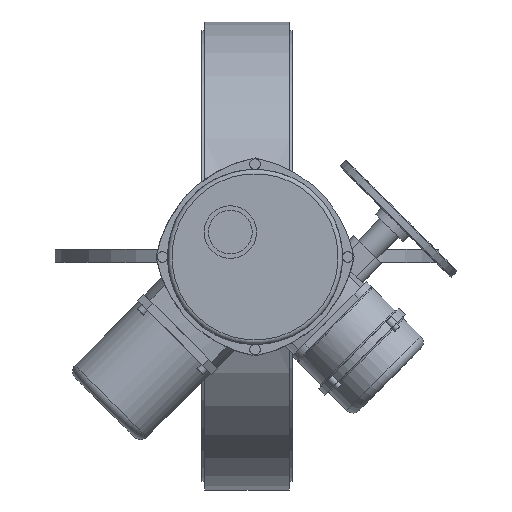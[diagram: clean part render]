
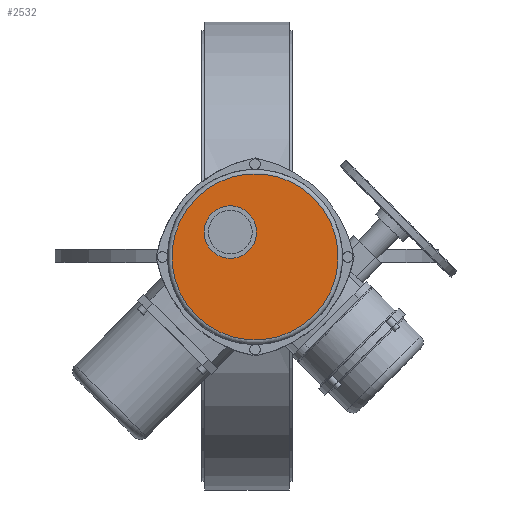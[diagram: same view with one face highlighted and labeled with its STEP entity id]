
A CAD part, top view. The second image highlights one B-rep face of the part: STEP entity #2532.
In plain terms, the highlighted planar face has unit normal (0, 0, 1).
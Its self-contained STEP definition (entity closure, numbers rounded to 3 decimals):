
#2532=ADVANCED_FACE('',(#5607,#5609),#5611,.T.);
#5607=FACE_BOUND('',#5608,.T.);
#5608=EDGE_LOOP('',(#7151));
#5609=FACE_BOUND('',#5610,.T.);
#5610=EDGE_LOOP('',(#7152));
#5611=PLANE('',#5612);
#5612=AXIS2_PLACEMENT_3D('',#5613,#5614,#5615);
#5613=CARTESIAN_POINT('',(9.192,-2.121,638.));
#5614=DIRECTION('',(0.,0.,1.));
#5615=DIRECTION('',(0.707,0.707,0.));
#7151=ORIENTED_EDGE('',*,*,#7881,.T.);
#7152=ORIENTED_EDGE('',*,*,#7944,.F.);
#7881=EDGE_CURVE('',#8969,#8969,#8970,.T.);
#7944=EDGE_CURVE('',#9071,#9071,#9072,.T.);
#8969=VERTEX_POINT('',#13805);
#8970=CIRCLE('',#13806,95.);
#9071=VERTEX_POINT('',#14066);
#9072=CIRCLE('',#14067,30.);
#13805=CARTESIAN_POINT('',(76.368,65.054,638.));
#13806=AXIS2_PLACEMENT_3D('',#13807,#13808,#13809);
#13807=CARTESIAN_POINT('',(9.192,-2.121,638.));
#13808=DIRECTION('',(0.,0.,1.));
#13809=DIRECTION('',(0.707,0.707,0.));
#14066=CARTESIAN_POINT('',(2.121,47.376,638.));
#14067=AXIS2_PLACEMENT_3D('',#14068,#14069,#14070);
#14068=CARTESIAN_POINT('',(-19.092,26.163,638.));
#14069=DIRECTION('',(0.,0.,1.));
#14070=DIRECTION('',(0.707,0.707,0.));
